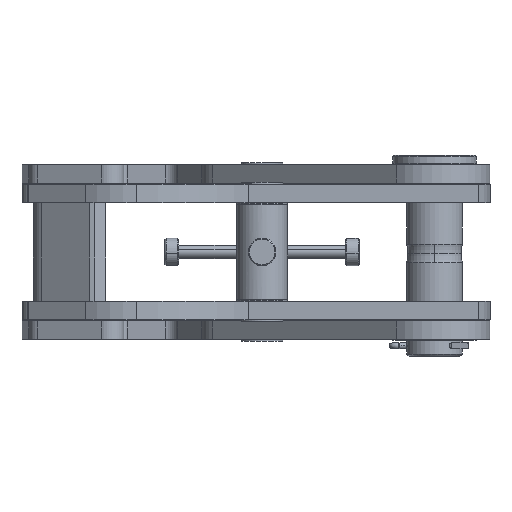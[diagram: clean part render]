
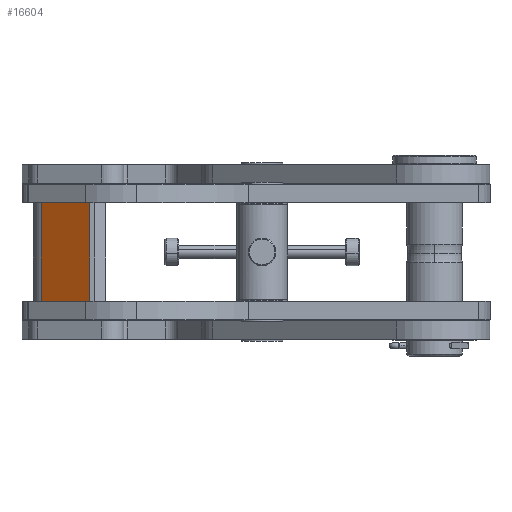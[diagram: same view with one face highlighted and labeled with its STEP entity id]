
A CAD part, left-side view. The second image highlights one B-rep face of the part: STEP entity #16604.
In plain terms, the highlighted planar face has unit normal (-0.822, 0.57, 0) as drawn and (0, -0.866, 0.5) by its records, which use the part's own axes.
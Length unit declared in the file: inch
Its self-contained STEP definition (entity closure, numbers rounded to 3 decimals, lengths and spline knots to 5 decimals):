
#833 = LINE ( 'NONE', #8712, #15820 ) ;
#1564 = DIRECTION ( 'NONE',  ( 0., 0.866, -0.5 ) ) ;
#3100 = ORIENTED_EDGE ( 'NONE', *, *, #20077, .F. ) ;
#3202 = DIRECTION ( 'NONE',  ( 0., 0.5, 0.866 ) ) ;
#3328 = CARTESIAN_POINT ( 'NONE',  ( 0., -0.33436, 0.10938 ) ) ;
#3846 = ORIENTED_EDGE ( 'NONE', *, *, #4414, .T. ) ;
#4414 = EDGE_CURVE ( 'NONE', #17488, #5207, #23903, .T. ) ;
#4967 = CARTESIAN_POINT ( 'NONE',  ( 0., -1.22675, -1.4363 ) ) ;
#5207 = VERTEX_POINT ( 'NONE', #9017 ) ;
#6169 = VERTEX_POINT ( 'NONE', #9220 ) ;
#6850 = VECTOR ( 'NONE', #12583, 39.37008 ) ;
#7518 = ORIENTED_EDGE ( 'NONE', *, *, #15783, .T. ) ;
#8712 = CARTESIAN_POINT ( 'NONE',  ( 0.5, -0.33436, 0.10938 ) ) ;
#8713 = DIRECTION ( 'NONE',  ( 1., 0., 0. ) ) ;
#8825 = FACE_OUTER_BOUND ( 'NONE', #9385, .T. ) ;
#9017 = CARTESIAN_POINT ( 'NONE',  ( 3.16, -1.22675, -1.4363 ) ) ;
#9077 = LINE ( 'NONE', #18293, #21964 ) ;
#9220 = CARTESIAN_POINT ( 'NONE',  ( 0.5, -0.43388, -0.063 ) ) ;
#9385 = EDGE_LOOP ( 'NONE', ( #3100, #16731, #3846, #7518 ) ) ;
#12583 = DIRECTION ( 'NONE',  ( 1., 0., 0. ) ) ;
#14258 = CARTESIAN_POINT ( 'NONE',  ( 3.16, -0.43388, -0.063 ) ) ;
#14451 = EDGE_CURVE ( 'NONE', #6169, #17488, #833, .T. ) ;
#14983 = VERTEX_POINT ( 'NONE', #14258 ) ;
#15393 = VECTOR ( 'NONE', #3202, 39.37008 ) ;
#15783 = EDGE_CURVE ( 'NONE', #5207, #14983, #20396, .T. ) ;
#15820 = VECTOR ( 'NONE', #20165, 39.37008 ) ;
#16430 = DIRECTION ( 'NONE',  ( 0., 0.5, 0.866 ) ) ;
#16604 = ADVANCED_FACE ( 'NONE', ( #8825 ), #22262, .F. ) ;
#16731 = ORIENTED_EDGE ( 'NONE', *, *, #14451, .T. ) ;
#17488 = VERTEX_POINT ( 'NONE', #20488 ) ;
#18293 = CARTESIAN_POINT ( 'NONE',  ( 3.16, -0.43388, -0.063 ) ) ;
#19749 = AXIS2_PLACEMENT_3D ( 'NONE', #3328, #1564, #16430 ) ;
#20077 = EDGE_CURVE ( 'NONE', #6169, #14983, #9077, .T. ) ;
#20165 = DIRECTION ( 'NONE',  ( 0., -0.5, -0.866 ) ) ;
#20396 = LINE ( 'NONE', #22503, #15393 ) ;
#20488 = CARTESIAN_POINT ( 'NONE',  ( 0.5, -1.22675, -1.4363 ) ) ;
#21964 = VECTOR ( 'NONE', #8713, 39.37008 ) ;
#22262 = PLANE ( 'NONE',  #19749 ) ;
#22503 = CARTESIAN_POINT ( 'NONE',  ( 3.16, -0.33436, 0.10938 ) ) ;
#23903 = LINE ( 'NONE', #4967, #6850 ) ;
